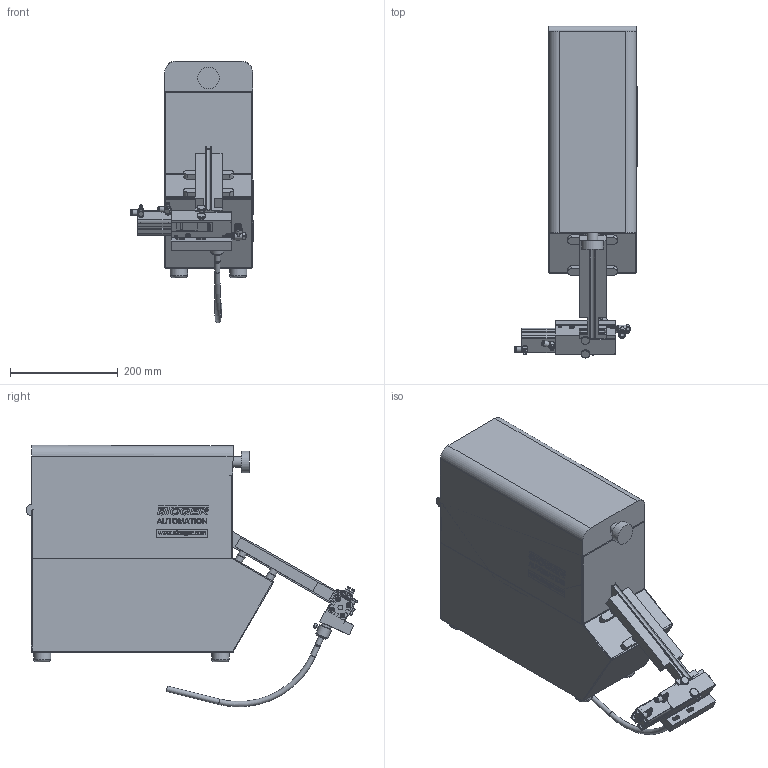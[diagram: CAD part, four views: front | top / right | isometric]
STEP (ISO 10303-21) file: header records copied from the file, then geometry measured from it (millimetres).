
FILE_DESCRIPTION(/* description */ (''),/* implementation_level */ '2;1');
FILE_NAME(/* name */ 'G:\Modelle für Marketing\3Ds Parasolid\Teil 2\3D_Parasolid_automatic_feed_unit_segment_feeder_SGF2_series.x_b.ipt.stp',/* time_stamp */ '2016-07-28T11:56:05+02:00',/* author */ ('Wolf'),/* organization */ (''),/* preprocessor_version */ 'ST-DEVELOPER v15.2',/* originating_system */ 'Autodesk Inventor 2014',/* authorisation */ '');
FILE_SCHEMA (('AUTOMOTIVE_DESIGN { 1 0 10303 214 3 1 1 }'));
Products named in the file (1): 3D_Parasolid_automatic_feed_unit_segment_feeder_SGF2_series.x_b
Bounding box: 226.36 x 614.63 x 484.4 mm (x, y, z)
Volume: 2505311.8 mm3; surface area: 1428590.2 mm2
Topology: 5 solids, 39 shells, 1993 faces, 5127 edges, 3342 vertices
Faces by surface type: plane 1161, bspline 357, cylinder 319, cone 108, torus 36, sphere 12
Full cylindrical faces by diameter (mm): 1.2 x6, 2.5 x2, 2.54 x1, 3.242 x9, 3.8 x2, 4 x21, 4.019 x6, 4.134 x3, 4.2 x8, 4.3 x2, 4.4 x2, 4.5 x5, 4.773 x1, 5 x16, 5.5 x4, 6 x6, 6.1 x2, 6.3 x1, 6.5 x2, 6.64 x1, 7 x7, 7.5 x1, 7.8 x6, 8 x8, 8.2 x1, 8.35 x1, 8.5 x8, 9 x12, 9.35 x1, 9.6 x3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
Entity records: 62716 total; most frequent: CARTESIAN_POINT 16230, ORIENTED_EDGE 9318, DIRECTION 7986, EDGE_CURVE 4663, VERTEX_POINT 3201, LINE 2906, VECTOR 2906, EDGE_LOOP 2588
